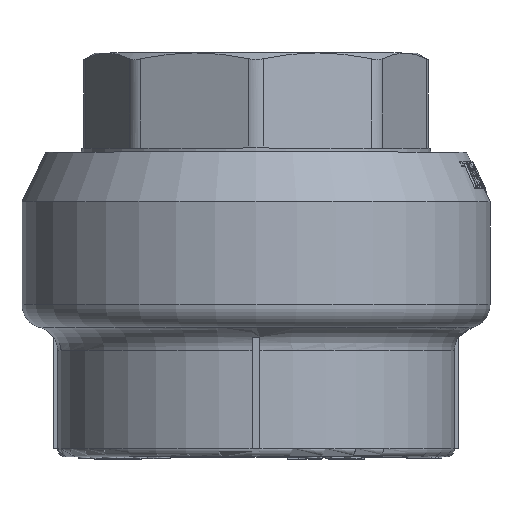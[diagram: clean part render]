
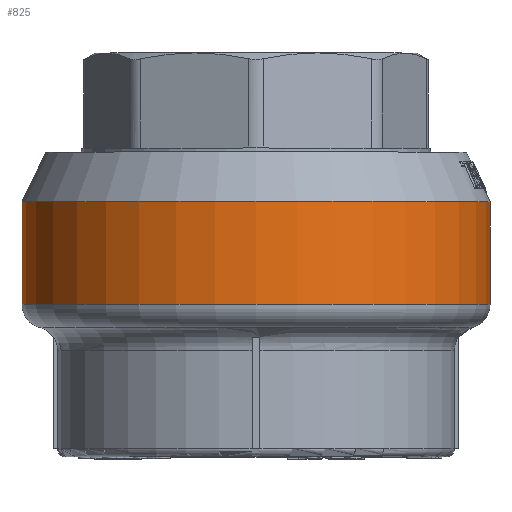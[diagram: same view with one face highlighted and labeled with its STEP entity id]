
A CAD part, top view. The second image highlights one B-rep face of the part: STEP entity #825.
In plain terms, the highlighted cylindrical face has radius 59 mm (diameter 118 mm), a full revolution.
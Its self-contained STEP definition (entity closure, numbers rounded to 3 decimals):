
#825=ADVANCED_FACE('',(#4955,#4957),#4959,.T.);
#4955=FACE_OUTER_BOUND('',#4956,.T.);
#4956=EDGE_LOOP('',(#11461));
#4957=FACE_OUTER_BOUND('',#4958,.T.);
#4958=EDGE_LOOP('',(#11462));
#4959=CYLINDRICAL_SURFACE('',#4960,59.);
#4960=AXIS2_PLACEMENT_3D('',#4961,#4962,#4963);
#4961=CARTESIAN_POINT('',(0.,32.8,0.));
#4962=DIRECTION('',(0.,1.,0.));
#4963=DIRECTION('',(-1.,0.,0.));
#11461=ORIENTED_EDGE('',*,*,#14865,.T.);
#11462=ORIENTED_EDGE('',*,*,#14863,.T.);
#14863=EDGE_CURVE('',#18254,#18254,#18255,.T.);
#14865=EDGE_CURVE('',#18258,#18258,#18259,.T.);
#18254=VERTEX_POINT('',#25654);
#18255=CIRCLE('',#25655,59.);
#18258=VERTEX_POINT('',#25664);
#18259=CIRCLE('',#25665,59.);
#25654=CARTESIAN_POINT('',(-59.,38.419,0.));
#25655=AXIS2_PLACEMENT_3D('',#25656,#25657,#25658);
#25656=CARTESIAN_POINT('',(0.,38.419,0.));
#25657=DIRECTION('',(0.,1.,0.));
#25658=DIRECTION('',(-1.,0.,0.));
#25664=CARTESIAN_POINT('',(-59.,64.3,0.));
#25665=AXIS2_PLACEMENT_3D('',#25666,#25667,#25668);
#25666=CARTESIAN_POINT('',(0.,64.3,0.));
#25667=DIRECTION('',(0.,-1.,0.));
#25668=DIRECTION('',(-1.,0.,0.));
